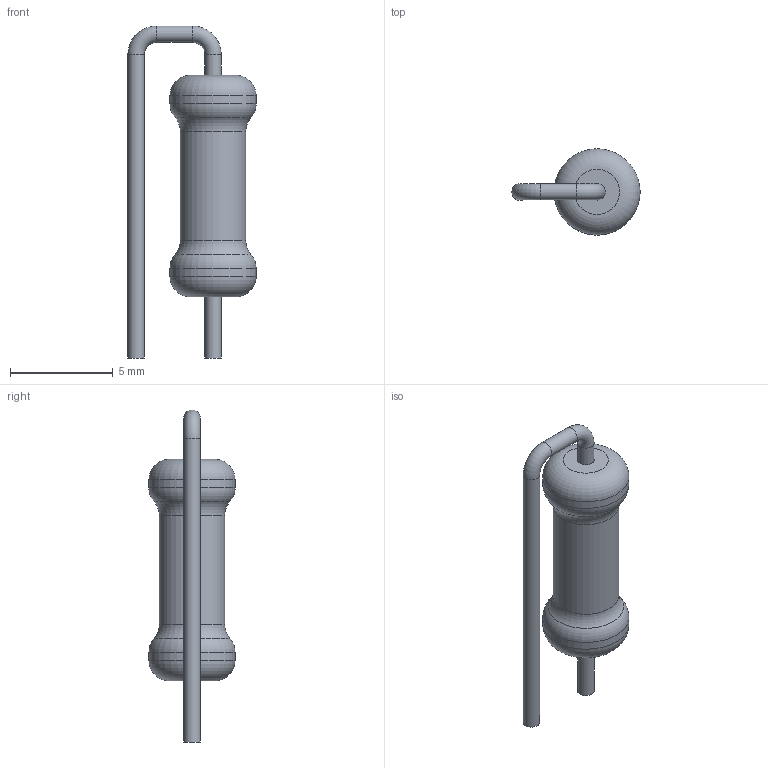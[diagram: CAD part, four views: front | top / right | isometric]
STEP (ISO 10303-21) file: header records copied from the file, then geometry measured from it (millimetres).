
FILE_DESCRIPTION(('STEP AP203'), '1');
FILE_NAME('R1-32-0.25(2)', '', ('UNSPECIFIED'), ('UNSPECIFIED'), 'ASCON STEP Converter 1.6', 'ASCON Math Kernel', '');
FILE_SCHEMA(('CONFIG_CONTROL_DESIGN'));
Length unit declared in the file: millimetre
Bounding box: 6.25 x 4.2 x 16.18 mm (x, y, z)
Volume: 117.4 mm3; surface area: 199.3 mm2
Topology: 1 solids, 1 shells, 19 faces, 33 edges, 18 vertices
Faces by surface type: torus 8, cylinder 7, plane 4
Full cylindrical faces by diameter (mm): 0.8 x4, 3.2 x1, 4.2 x2
Entity records: 570 total; most frequent: DIRECTION 76, CARTESIAN_POINT 56, AXIS2_PLACEMENT_3D 38, EDGE_LOOP 36, ORIENTED_EDGE 36, FACE_OUTER_BOUND 30, COLOUR_RGB 20, FILL_AREA_STYLE_COLOUR 20
